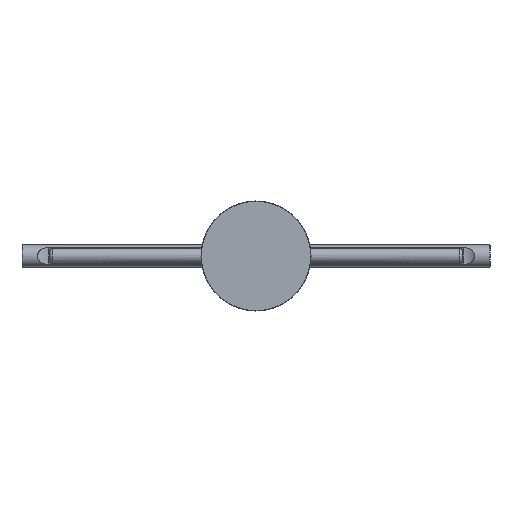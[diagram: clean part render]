
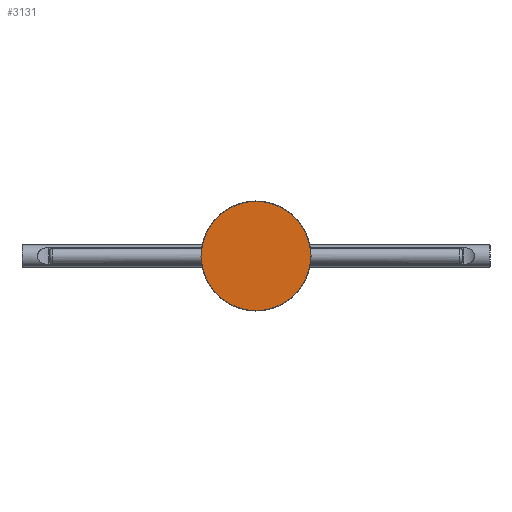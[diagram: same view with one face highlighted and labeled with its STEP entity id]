
A CAD part, front view. The second image highlights one B-rep face of the part: STEP entity #3131.
In plain terms, the highlighted planar face has unit normal (0, -1, 0).
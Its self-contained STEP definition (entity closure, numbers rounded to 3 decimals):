
#52 = CARTESIAN_POINT ( 'NONE',  ( 0., -435., 39.75 ) ) ;
#78 = CIRCLE ( 'NONE', #1337, 39.75 ) ;
#84 = AXIS2_PLACEMENT_3D ( 'NONE', #1421, #4376, #5080 ) ;
#303 = CARTESIAN_POINT ( 'NONE',  ( 0., -435., 0. ) ) ;
#1337 = AXIS2_PLACEMENT_3D ( 'NONE', #2921, #5315, #1724 ) ;
#1421 = CARTESIAN_POINT ( 'NONE',  ( -5.25, -435., 0. ) ) ;
#1724 = DIRECTION ( 'NONE',  ( 0., 0., -1. ) ) ;
#2003 = PLANE ( 'NONE',  #84 ) ;
#2262 = EDGE_CURVE ( 'NONE', #4642, #5860, #78, .T. ) ;
#2285 = ORIENTED_EDGE ( 'NONE', *, *, #2262, .T. ) ;
#2761 = EDGE_LOOP ( 'NONE', ( #3795, #2285 ) ) ;
#2862 = DIRECTION ( 'NONE',  ( 0., 0., -1. ) ) ;
#2921 = CARTESIAN_POINT ( 'NONE',  ( 0., -435., 0. ) ) ;
#3131 = ADVANCED_FACE ( 'NONE', ( #4945 ), #2003, .T. ) ;
#3795 = ORIENTED_EDGE ( 'NONE', *, *, #6330, .T. ) ;
#4376 = DIRECTION ( 'NONE',  ( 0., -1., 0. ) ) ;
#4391 = CARTESIAN_POINT ( 'NONE',  ( 0., -435., -39.75 ) ) ;
#4642 = VERTEX_POINT ( 'NONE', #4391 ) ;
#4945 = FACE_OUTER_BOUND ( 'NONE', #2761, .T. ) ;
#5080 = DIRECTION ( 'NONE',  ( 0., 0., -1. ) ) ;
#5315 = DIRECTION ( 'NONE',  ( 0., -1., 0. ) ) ;
#5356 = AXIS2_PLACEMENT_3D ( 'NONE', #303, #7628, #2862 ) ;
#5860 = VERTEX_POINT ( 'NONE', #52 ) ;
#6330 = EDGE_CURVE ( 'NONE', #5860, #4642, #6648, .T. ) ;
#6648 = CIRCLE ( 'NONE', #5356, 39.75 ) ;
#7628 = DIRECTION ( 'NONE',  ( 0., -1., 0. ) ) ;
